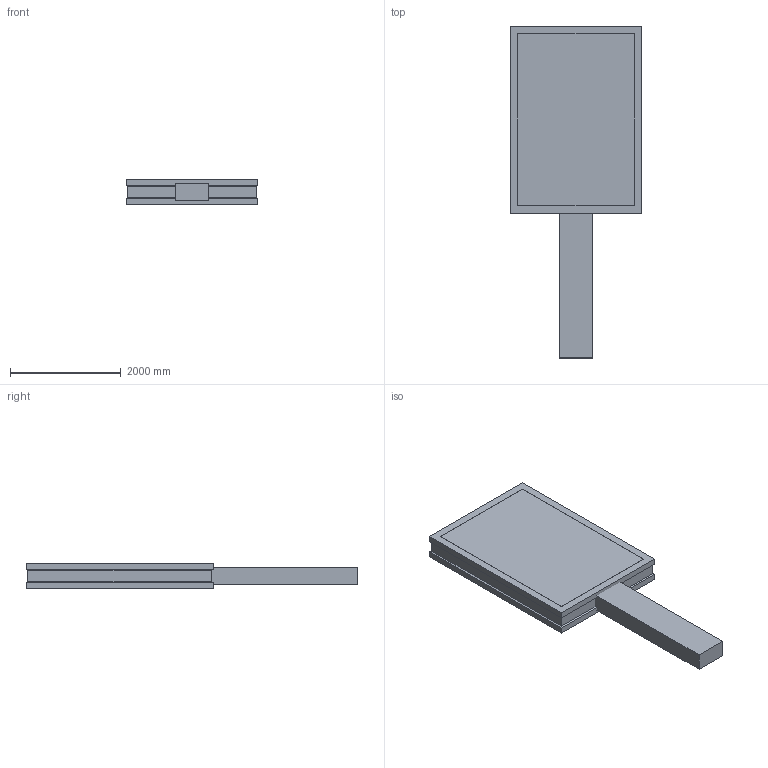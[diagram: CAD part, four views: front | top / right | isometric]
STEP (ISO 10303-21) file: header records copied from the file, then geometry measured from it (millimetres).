
FILE_DESCRIPTION (( 'STEP AP214' ), '1' );
FILE_NAME ('NAB-AL-Almere-6.5m2.STEP', '2020-02-16T20:58:49', ( '' ), ( '' ), 'SwSTEP 2.0', 'SolidWorks 2016', '' );
FILE_SCHEMA (( 'AUTOMOTIVE_DESIGN' ));
Length unit declared in the file: millimetre
Products named in the file (1): NAB-AL-Almere-6.5m2
Bounding box: 2380 x 6000 x 450 mm (x, y, z)
Volume: 4090740000 mm3; surface area: 36889800 mm2
Topology: 3 solids, 3 shells, 41 faces, 87 edges, 52 vertices
Faces by surface type: plane 41
Entity records: 1135 total; most frequent: CARTESIAN_POINT 181, ORIENTED_EDGE 174, DIRECTION 171, VECTOR 87, EDGE_CURVE 87, LINE 87, VERTEX_POINT 52, EDGE_LOOP 43
